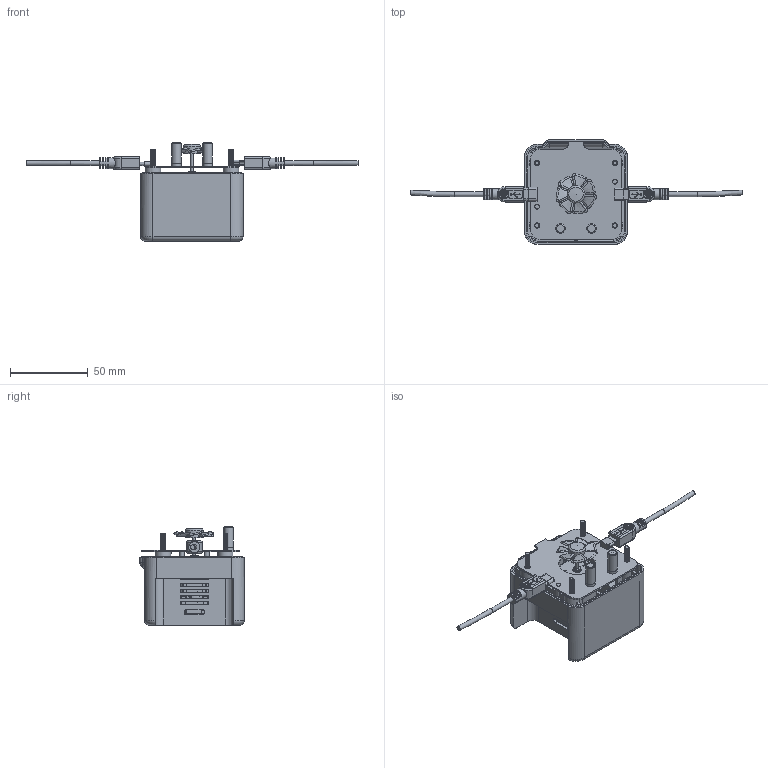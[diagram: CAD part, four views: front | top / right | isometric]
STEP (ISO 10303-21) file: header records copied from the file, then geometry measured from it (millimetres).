
FILE_DESCRIPTION(/* description */ (''),/* implementation_level */ '2;1');
FILE_NAME(/* name */ '1.stp',/* time_stamp */ '2017-05-17T22:14:12+08:00',/* author */ (''),/* organization */ (''),/* preprocessor_version */ 'ST-DEVELOPER v15',/* originating_system */ 'SIEMENS PLM Software NX 8.5',/* authorisation */ '');
FILE_SCHEMA (('AUTOMOTIVE_DESIGN { 1 0 10303 214 3 1 1 1 }'));
Products named in the file (1): Admi09DC788533t9
Bounding box: 213 x 67 x 63.01 mm (x, y, z)
Volume: 54367.9 mm3; surface area: 68927.9 mm2
Topology: 21 solids, 21 shells, 1184 faces, 3156 edges, 2076 vertices
Faces by surface type: plane 700, cylinder 334, bspline 92, torus 35, sphere 15, cone 4, extrusion 4
Full cylindrical faces by diameter (mm): 1.764 x4, 1.96 x1, 2.156 x1, 3 x6, 3.4 x8, 3.92 x4, 4 x4, 4.9 x1, 5.88 x1, 6 x4, 6.6 x4, 7 x6, 8.33 x1, 8.96 x1, 10.059 x4, 11.2 x1, 23.764 x1
Entity records: 74827 total; most frequent: CARTESIAN_POINT 44958, ORIENTED_EDGE 6054, DIRECTION 5827, EDGE_CURVE 3027, VERTEX_POINT 2022, AXIS2_PLACEMENT_3D 2009, VECTOR 1809, LINE 1805
